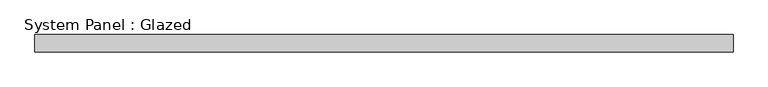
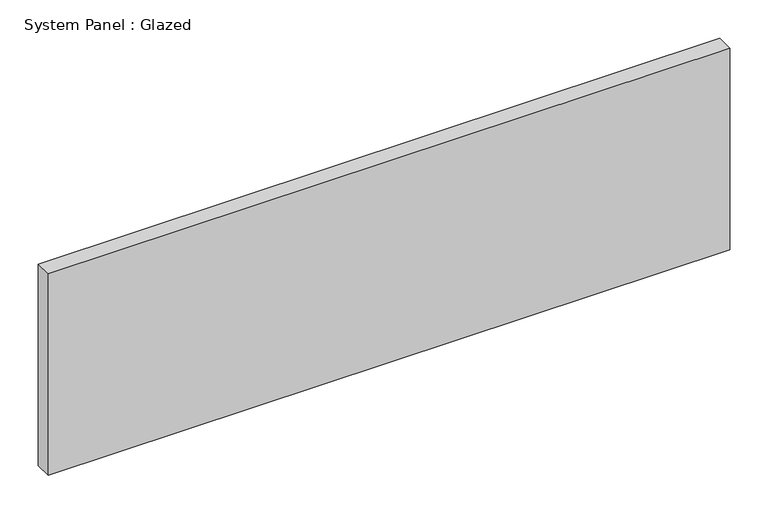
"""IFC4 building model written with IfcOpenShell, lengths in millimetres: plate geometry, System Panel : Glazed."""

from ifc_helpers import new_model, si_unit, origin, origin_with_axes, place, context, project, spatial, polyline, outline, extrude, source, transform, mapped, element, save


def system_panel_glazed_ad6731cb(model_context):
    return source(origin(), model_context, "Body", "SweptSolid", [
        extrude(outline(polyline([(511.4925, -44.45), (-511.4925, -44.45), (-511.4925, -19.05), (511.4925, -19.05), (511.4925, -44.45)])), origin_with_axes(), (0.0, 0.0, 1.0), 319.8283668),
    ])


if __name__ == "__main__":
    model = new_model("IFC4")
    model_context = context("Model", 3, world=origin())
    ifc_project = project(units=[si_unit("LENGTHUNIT", "METRE", prefix="MILLI")], contexts=[model_context])
    site = spatial("IfcSite", under=ifc_project)
    building = spatial("IfcBuilding", under=site)
    placement = place(None, origin())
    system_panel_glazed_shape = system_panel_glazed_ad6731cb(model_context)
    element("IfcPlate", 1, ObjectType="System Panel : Glazed", at=placement, inside=building, context=model_context, shape_type="MappedRepresentation", body=[
        mapped(system_panel_glazed_shape, transform((0.0, 0.0, 0.0), x_axis=(1.0, 0.0, 0.0), y_axis=(0.0, 1.0, 0.0), z_axis=(0.0, 0.0, 1.0))),
    ])
    save(model, "model.ifc")
